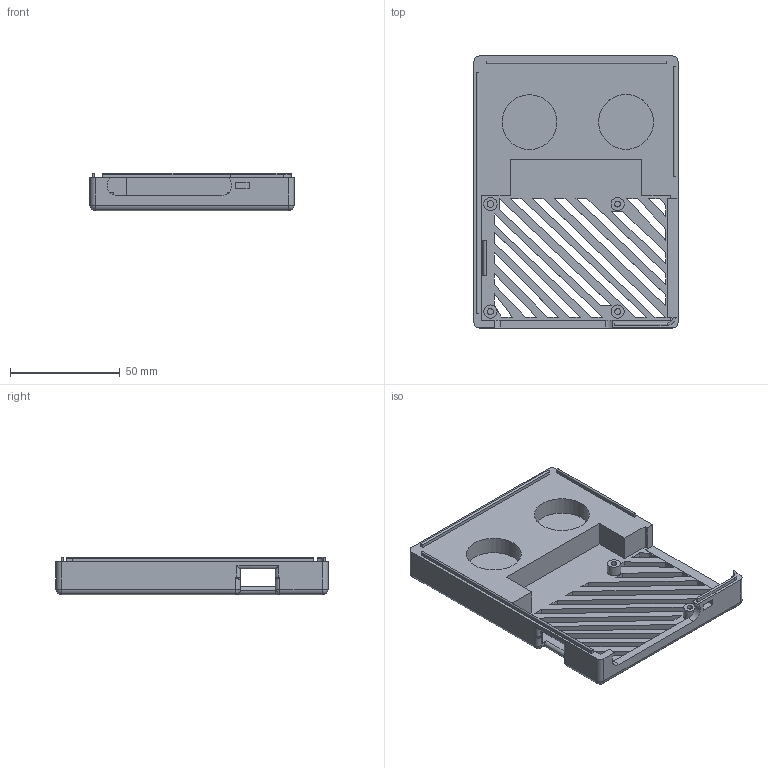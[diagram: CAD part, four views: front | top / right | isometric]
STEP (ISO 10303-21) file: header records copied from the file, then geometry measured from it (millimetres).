
FILE_DESCRIPTION(/* description */ (''),/* implementation_level */ '2;1');
FILE_NAME(/* name */ 'C:/Users/Zach/Desktop/Elly Enclosure/Bottom of Talkbox Enclosure.step',/* time_stamp */ '2022-04-11T18:16:00-06:00',/* author */ (''),/* organization */ (''),/* preprocessor_version */ 'ST-DEVELOPER v18.1',/* originating_system */ 'Autodesk Translation Framework v10.14.0.1471',/* authorisation */ '');
FILE_SCHEMA (('AUTOMOTIVE_DESIGN { 1 0 10303 214 3 1 1 }'));
Length unit declared in the file: millimetre
Products named in the file (2): Talkbox Enclosure; Case
Assembly tree (1 placements, depth 2):
  Talkbox Enclosure
    Case
Bounding box: 93 x 124 x 17 mm (x, y, z)
Volume: 85774.5 mm3; surface area: 33709 mm2
Topology: 1 solids, 1 shells, 157 faces, 404 edges, 260 vertices
Faces by surface type: plane 108, cylinder 40, sphere 4, bspline 4, torus 1
Full cylindrical faces by diameter (mm): 2.7 x3, 3 x1, 6 x4, 25 x2
Entity records: 4870 total; most frequent: CARTESIAN_POINT 888, ORIENTED_EDGE 808, DIRECTION 793, EDGE_CURVE 404, LINE 323, VECTOR 323, VERTEX_POINT 260, AXIS2_PLACEMENT_3D 235
